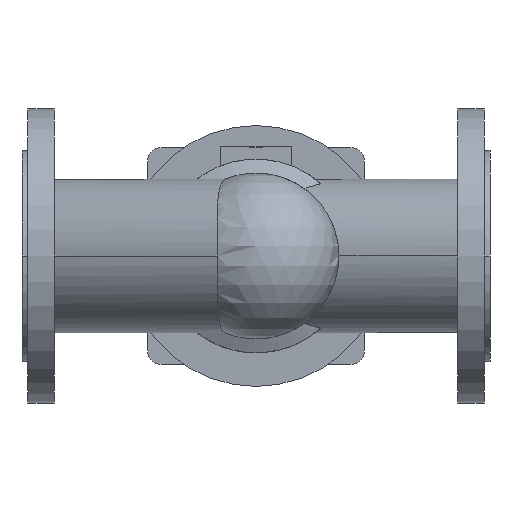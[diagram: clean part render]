
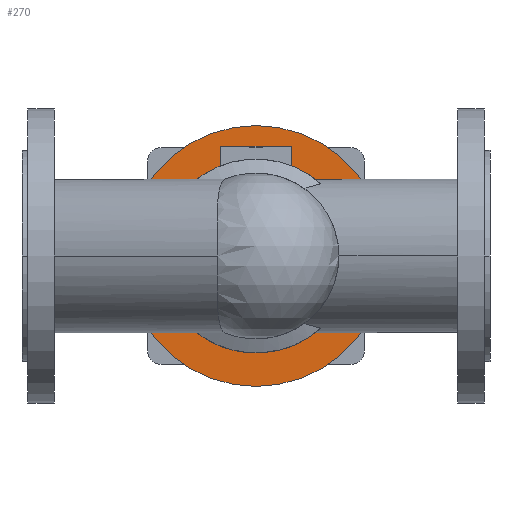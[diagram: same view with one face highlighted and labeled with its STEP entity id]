
A CAD part, front view. The second image highlights one B-rep face of the part: STEP entity #270.
In plain terms, the highlighted planar face has unit normal (0, -1, 0).
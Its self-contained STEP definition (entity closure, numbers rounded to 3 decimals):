
#270 = ADVANCED_FACE( '', ( #678, #679 ), #680, .T. );
#678 = FACE_OUTER_BOUND( '', #1154, .T. );
#679 = FACE_BOUND( '', #1155, .T. );
#680 = PLANE( '', #1156 );
#1154 = EDGE_LOOP( '', ( #2461, #2462 ) );
#1155 = EDGE_LOOP( '', ( #2463, #2464 ) );
#1156 = AXIS2_PLACEMENT_3D( '', #2465, #2466, #2467 );
#2461 = ORIENTED_EDGE( '', *, *, #3066, .T. );
#2462 = ORIENTED_EDGE( '', *, *, #3175, .T. );
#2463 = ORIENTED_EDGE( '', *, *, #2923, .F. );
#2464 = ORIENTED_EDGE( '', *, *, #3289, .F. );
#2465 = CARTESIAN_POINT( '', ( 89.5, 89.3, 0. ) );
#2466 = DIRECTION( '', ( 0., -1., 0. ) );
#2467 = DIRECTION( '', ( -1., 0., 0. ) );
#2923 = EDGE_CURVE( '', #3436, #3439, #3440, .T. );
#3066 = EDGE_CURVE( '', #3715, #3719, #3721, .T. );
#3175 = EDGE_CURVE( '', #3719, #3715, #3902, .T. );
#3289 = EDGE_CURVE( '', #3439, #3436, #4047, .T. );
#3436 = VERTEX_POINT( '', #4359 );
#3439 = VERTEX_POINT( '', #4363 );
#3440 = CIRCLE( '', #4364, 72.5 );
#3715 = VERTEX_POINT( '', #4902 );
#3719 = VERTEX_POINT( '', #4907 );
#3721 = CIRCLE( '', #4910, 97.5 );
#3902 = CIRCLE( '', #5163, 97.5 );
#4047 = CIRCLE( '', #5614, 72.5 );
#4359 = CARTESIAN_POINT( '', ( 102.5, 89.3, 0. ) );
#4363 = CARTESIAN_POINT( '', ( 247.5, 89.3, 0. ) );
#4364 = AXIS2_PLACEMENT_3D( '', #5924, #5925, #5926 );
#4902 = CARTESIAN_POINT( '', ( 272.5, 89.3, 0. ) );
#4907 = CARTESIAN_POINT( '', ( 77.5, 89.3, 0. ) );
#4910 = AXIS2_PLACEMENT_3D( '', #6200, #6201, #6202 );
#5163 = AXIS2_PLACEMENT_3D( '', #6383, #6384, #6385 );
#5614 = AXIS2_PLACEMENT_3D( '', #6636, #6637, #6638 );
#5924 = CARTESIAN_POINT( '', ( 175., 89.3, 0. ) );
#5925 = DIRECTION( '', ( 0., -1., 0. ) );
#5926 = DIRECTION( '', ( -1., 0., 0. ) );
#6200 = CARTESIAN_POINT( '', ( 175., 89.3, 0. ) );
#6201 = DIRECTION( '', ( 0., -1., 0. ) );
#6202 = DIRECTION( '', ( 1., 0., 0. ) );
#6383 = CARTESIAN_POINT( '', ( 175., 89.3, 0. ) );
#6384 = DIRECTION( '', ( 0., -1., 0. ) );
#6385 = DIRECTION( '', ( 1., 0., 0. ) );
#6636 = CARTESIAN_POINT( '', ( 175., 89.3, 0. ) );
#6637 = DIRECTION( '', ( 0., -1., 0. ) );
#6638 = DIRECTION( '', ( -1., 0., 0. ) );
